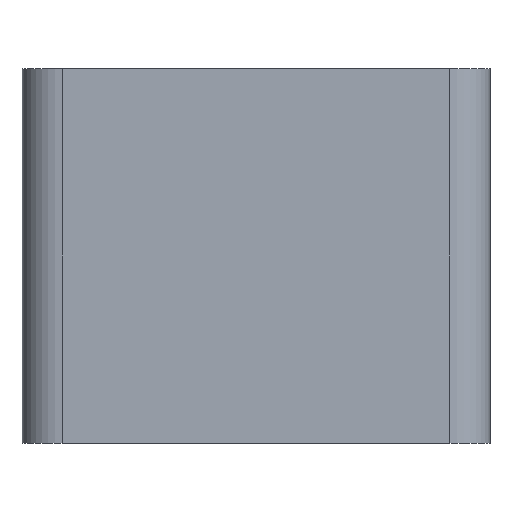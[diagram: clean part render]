
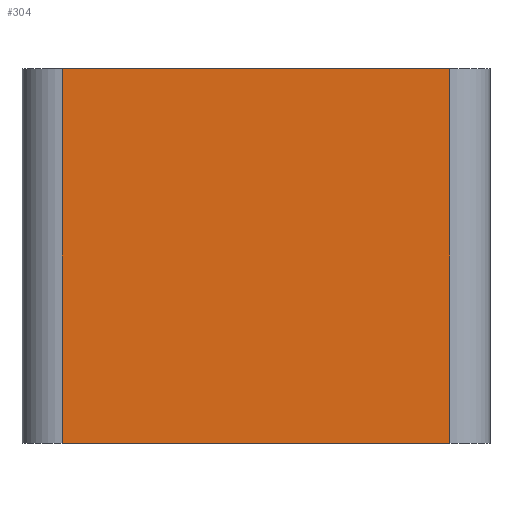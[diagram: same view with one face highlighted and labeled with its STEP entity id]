
A CAD part, front view. The second image highlights one B-rep face of the part: STEP entity #304.
In plain terms, the highlighted planar face has unit normal (0, -1, 0).
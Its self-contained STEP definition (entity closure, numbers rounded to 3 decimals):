
#175=FACE_OUTER_BOUND('',#1217,.T.);
#304=ADVANCED_FACE('',(#175),#469,.T.);
#469=PLANE('',#2979);
#576=LINE('',#4345,#710);
#577=LINE('',#4349,#711);
#578=LINE('',#4352,#712);
#579=LINE('',#4353,#713);
#710=VECTOR('',#3197,1.);
#711=VECTOR('',#3202,1.);
#712=VECTOR('',#3203,1.);
#713=VECTOR('',#3204,1.);
#1217=EDGE_LOOP('',(#1525,#1526,#1527,#1528));
#1525=ORIENTED_EDGE('',*,*,#2575,.T.);
#1526=ORIENTED_EDGE('',*,*,#2576,.T.);
#1527=ORIENTED_EDGE('',*,*,#2573,.T.);
#1528=ORIENTED_EDGE('',*,*,#2577,.T.);
#2299=VERTEX_POINT('',#4344);
#2300=VERTEX_POINT('',#4346);
#2301=VERTEX_POINT('',#4350);
#2302=VERTEX_POINT('',#4351);
#2573=EDGE_CURVE('',#2300,#2299,#576,.T.);
#2575=EDGE_CURVE('',#2301,#2302,#577,.T.);
#2576=EDGE_CURVE('',#2302,#2300,#578,.T.);
#2577=EDGE_CURVE('',#2299,#2301,#579,.T.);
#2979=AXIS2_PLACEMENT_3D('',#4354,#3205,#3206);
#3197=DIRECTION('',(-1.,0.,0.));
#3202=DIRECTION('',(1.,0.,0.));
#3203=DIRECTION('',(0.,0.,1.));
#3204=DIRECTION('',(0.,0.,-1.));
#3205=DIRECTION('',(0.,-1.,0.));
#3206=DIRECTION('',(0.,0.,-1.));
#4344=CARTESIAN_POINT('',(3.,0.,28.));
#4345=CARTESIAN_POINT('',(17.5,0.,28.));
#4346=CARTESIAN_POINT('',(32.,0.,28.));
#4349=CARTESIAN_POINT('',(17.5,0.,0.));
#4350=CARTESIAN_POINT('',(3.,0.,0.));
#4351=CARTESIAN_POINT('',(32.,0.,0.));
#4352=CARTESIAN_POINT('',(32.,0.,0.));
#4353=CARTESIAN_POINT('',(3.,0.,0.));
#4354=CARTESIAN_POINT('',(17.5,0.,0.));
